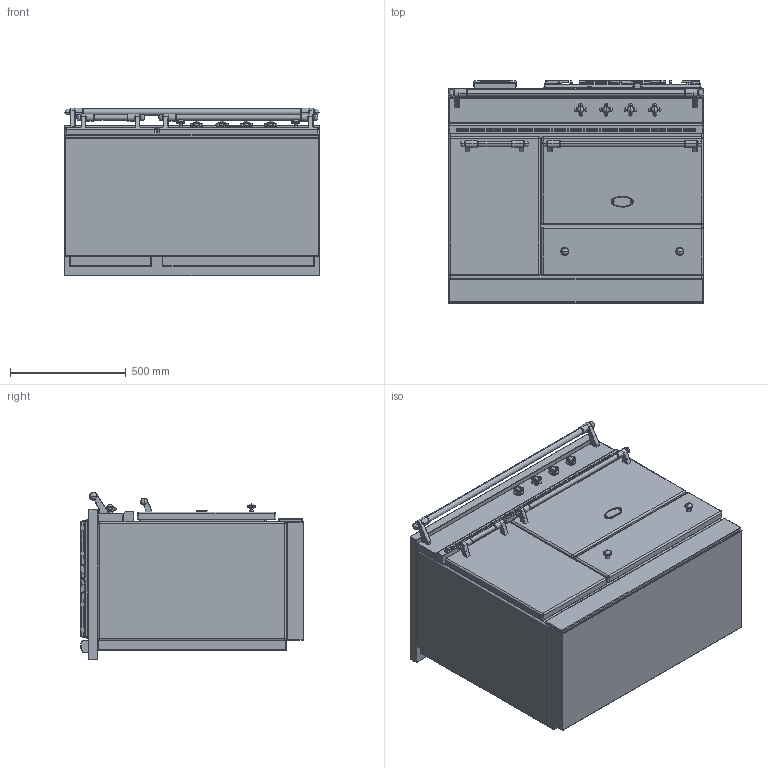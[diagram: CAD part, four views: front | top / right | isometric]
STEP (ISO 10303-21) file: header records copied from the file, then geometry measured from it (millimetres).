
FILE_DESCRIPTION((''),'2;1');
FILE_NAME('LG1131_CHASSAGNE_ASM','2021-12-02T09:01:50',('r.avril'),(''),'CREO PARAMETRIC BY PTC INC, 2017260','CREO PARAMETRIC BY PTC INC, 2017260','');
FILE_SCHEMA(('AP203_CONFIGURATION_CONTROLLED_3D_DESIGN_OF_MECHANICAL_PARTS_AND_ASSEMBLIES_MIM_LF { 1 0 10303 403 2 1 2 }'));
Products named in the file (26): BASE_EXPORT_CHASSAGNE_LG1131; 65650003; 65650004; 6531940; 6531941; 6531943; 65049009; 65650001; 6538399; 1931942; 65080022_AF0; 6531942_ASM; BASE_EXPORT_CHASSAGNE_LG1131_ASM; TABLE_1105G_CLASSIQUE_3_FEUX; 5KW; 1_5KW; 3KW; 6537025; 65149005; 90000488_ASM; 6537023; 90000565_ASM; CHEMINEE_2020_LG182_EXPORT_STEP; CHEMINEE_2020_LG371_EXPORT_STEP; TABLE_1105G_CLASSIQUE_3_FEUX_ASM; LG1131_CHASSAGNE_ASM
Assembly tree (39 placements, depth 4):
  LG1131_CHASSAGNE_ASM
    BASE_EXPORT_CHASSAGNE_LG1131_ASM
      BASE_EXPORT_CHASSAGNE_LG1131
      65650003
      65650004
      6531940  x2
      6531941  x2
      6531943  x2
      65049009
      65650001
      6531942_ASM  x4
        6538399
        1931942
        65080022_AF0
    TABLE_1105G_CLASSIQUE_3_FEUX_ASM
      TABLE_1105G_CLASSIQUE_3_FEUX
      5KW
      1_5KW
      3KW
      90000488_ASM  x2
        6537025
        65149005
      90000565_ASM
        6537023
        65149005  x4
      CHEMINEE_2020_LG182_EXPORT_STEP
      CHEMINEE_2020_LG371_EXPORT_STEP
Bounding box: 1105 x 965 x 724 mm (x, y, z)
Volume: 401193907.5 mm3; surface area: 10328536.8 mm2
Topology: 51 solids, 59 shells, 5517 faces, 14116 edges, 8684 vertices
Faces by surface type: plane 2130, cylinder 1767, bspline 809, cone 252, torus 223, sphere 190, extrusion 134, revolution 12
Entity records: 157403 total; most frequent: CARTESIAN_POINT 49482, ORIENTED_EDGE 18586, DIRECTION 16668, EDGE_CURVE 9303, VERTEX_POINT 5754, AXIS2_PLACEMENT_3D 5720, VECTOR 5147, LINE 5097
